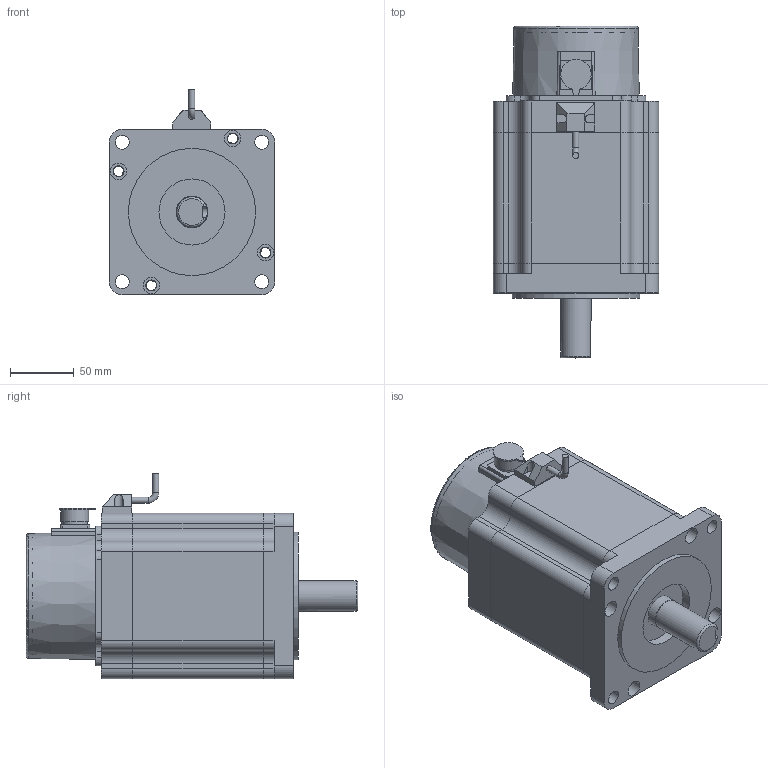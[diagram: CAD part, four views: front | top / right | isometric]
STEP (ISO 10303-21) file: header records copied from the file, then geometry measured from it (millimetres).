
FILE_DESCRIPTION(/* description */ (''),/* implementation_level */ '2;1');
FILE_NAME(/* name */ '130BYG350A.stp',/* time_stamp */ '2024-08-16T15:51:42+08:00',/* author */ (''),/* organization */ (''),/* preprocessor_version */ 'ST-DEVELOPER v18.1',/* originating_system */ 'SIEMENS PLM Software NX 2000',/* authorisation */ '');
FILE_SCHEMA (('AUTOMOTIVE_DESIGN { 1 0 10303 214 3 1 1 1 }'));
Length unit declared in the file: millimetre
Products named in the file (1): 925032A4A3696v35
Bounding box: 130 x 261 x 161.44 mm (x, y, z)
Volume: 2338043.6 mm3; surface area: 266463.2 mm2
Topology: 9 solids, 9 shells, 414 faces, 1174 edges, 791 vertices
Faces by surface type: plane 301, cylinder 107, torus 4, cone 2
Full cylindrical faces by diameter (mm): 3 x4, 4.8 x2, 6.5 x4, 7 x1, 8 x4, 8.5 x12, 11 x4, 13 x4, 16.5 x1, 20.196 x2, 22.032 x1, 24 x1, 24.7 x1, 25 x1, 52 x1, 100 x1
Entity records: 13510 total; most frequent: CARTESIAN_POINT 2572, ORIENTED_EDGE 2176, DIRECTION 2125, EDGE_CURVE 1088, LINE 863, VECTOR 863, VERTEX_POINT 754, EDGE_LOOP 632
